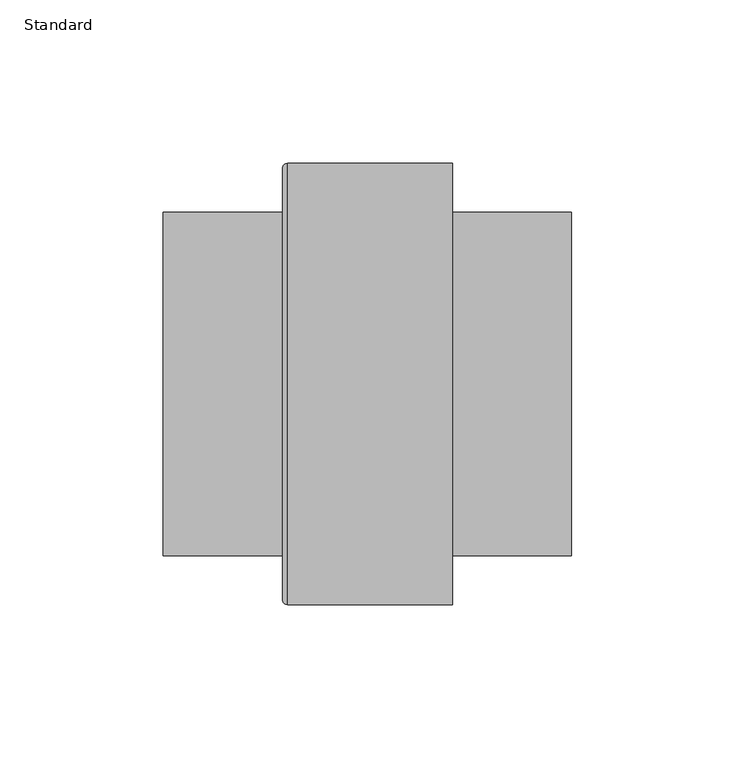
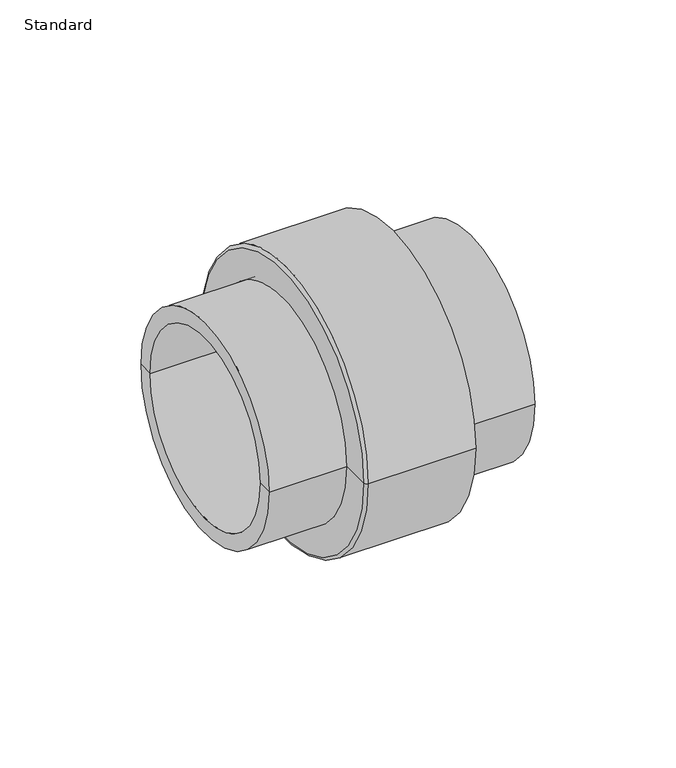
"""IFC4 building model written with IfcOpenShell, lengths in millimetres: pipe fitting geometry, Durapipe_PipeFitting_PVC_SocketUnions : Standard."""

from ifc_helpers import new_model, si_unit, point, frame, origin, place, context, project, spatial, polyline, circle_curve, ellipse_curve, trimmed, source, transform, mapped, element, save
from ifc_brep_helpers import plane_surface, cylinder_surface, revolved_surface, advanced_brep


def standard_3389f363(model_context):
    return source(origin(), model_context, "Body", "AdvancedBrep", [
        advanced_brep(
        [(-64.0, -52.5, 0.0), (-64.0, 52.5, 0.0), (-64.0, 66.0, 0.0), (-64.0, -66.0, 0.0), (-12.0, -67.5, 0.0), (-12.0, 67.5, 0.0), (-12.0, 52.5, 0.0), (-12.0, -52.5, 0.0), (-62.5, -67.5, 0.0), (-62.5, 67.5, 0.0)],
        [
            (0, 1, circle_curve(frame((-64.0, 0.0, 0.0), z_axis=(1.0, 0.0, 0.0), x_axis=(0.0, 1.0, 0.0)), 52.5)),
            (1, 2),
            (2, 3, circle_curve(frame((-64.0, 0.0, 0.0), z_axis=(-1.0, 0.0, 0.0), x_axis=(0.0, 1.0, 0.0)), 66.0)),
            (3, 0),
            (1, 0, circle_curve(frame((-64.0, 0.0, 0.0), z_axis=(1.0, 0.0, 0.0), x_axis=(0.0, 1.0, 0.0)), 52.5)),
            (3, 2, circle_curve(frame((-64.0, 0.0, 0.0), z_axis=(-1.0, 0.0, 0.0), x_axis=(0.0, 1.0, 0.0)), 66.0)),
            (4, 5, circle_curve(frame((-12.0, 0.0, 0.0), z_axis=(1.0, 0.0, 0.0), x_axis=(0.0, 1.0, 0.0)), 67.5)),
            (5, 6),
            (6, 7, circle_curve(frame((-12.0, 0.0, 0.0), z_axis=(-1.0, 0.0, 0.0), x_axis=(0.0, 1.0, 0.0)), 52.5)),
            (7, 4),
            (5, 4, circle_curve(frame((-12.0, 0.0, 0.0), z_axis=(1.0, 0.0, 0.0), x_axis=(0.0, 1.0, 0.0)), 67.5)),
            (7, 6, circle_curve(frame((-12.0, 0.0, 0.0), z_axis=(-1.0, 0.0, 0.0), x_axis=(0.0, 1.0, 0.0)), 52.5)),
            (8, 9, circle_curve(frame((-62.5, 0.0, 0.0), z_axis=(1.0, 0.0, 0.0), x_axis=(0.0, 1.0, 0.0)), 67.5)),
            (9, 5),
            (4, 8),
            (9, 8, circle_curve(frame((-62.5, 0.0, 0.0), z_axis=(1.0, 0.0, 0.0), x_axis=(0.0, 1.0, 0.0)), 67.5)),
            (2, 9, circle_curve(frame((-62.5, 66.0, 0.0), z_axis=(0.0, 0.0, -1.0), x_axis=(1.0, 0.0, 0.0)), 1.5)),
            (8, 3, circle_curve(frame((-62.5, -66.0, 0.0), z_axis=(0.0, 0.0, -1.0), x_axis=(1.0, 0.0, 0.0)), 1.5)),
            (6, 1),
            (0, 7),
        ],
        [
            plane_surface(frame((-64.0, 0.0, 0.0), z_axis=(-1.0, 0.0, 0.0), x_axis=(0.0, 1.0, 0.0))),
            plane_surface(frame((-12.0, 0.0, 0.0), z_axis=(1.0, 0.0, 0.0), x_axis=(0.0, 1.0, 0.0))),
            cylinder_surface(frame((2000.0, 0.0, 0.0), z_axis=(-1.0, 0.0, 0.0), x_axis=(0.0, 1.0, 0.0)), 67.5),
            revolved_surface(trimmed(ellipse_curve(frame((-62.5, 66.0, 0.0), z_axis=(0.0, 0.0, 1.0), x_axis=(1.0, 0.0, 0.0)), 1.5, 1.5), [point((-62.5, 67.5, 0.0))], [point((-64.0, 66.0, 0.0))], True, "CARTESIAN"), (2000.0, 0.0, 0.0), (-1.0, 0.0, 0.0)),
            revolved_surface(polyline([(-64.0, 52.5, 0.0), (-12.0, 52.5, 0.0)]), (2000.0, 0.0, 0.0), (-1.0, 0.0, 0.0)),
        ],
        [
            (0, [[1, 2, 3, 4]]),
            (0, [[5, -4, 6, -2]]),
            (1, [[7, 8, 9, 10]]),
            (1, [[11, -10, 12, -8]]),
            (2, [[13, 14, -7, 15]]),
            (2, [[16, -15, -11, -14]]),
            (3, [[-3, 17, -13, 18]]),
            (3, [[-6, -18, -16, -17]]),
            (4, [[-9, 19, -1, 20]]),
            (4, [[-12, -20, -5, -19]]),
        ],
    ),
        advanced_brep(
        [(-49.5, -45.0, 0.0), (-49.5, 45.0, 0.0), (-100.5, 45.0, 0.0), (-100.5, -45.0, 0.0), (-49.5, 0.0, 0.0), (-26.5, -45.0, 0.0), (-26.5, 45.0, 0.0), (-26.5, 0.0, 0.0), (-100.5, -52.5, 0.0), (-100.5, 52.5, 0.0), (24.5, 52.5, 0.0), (24.5, -52.5, 0.0), (24.5, -45.0, 0.0), (24.5, 45.0, 0.0)],
        [
            (0, 1, circle_curve(frame((-49.5, 0.0, 0.0), z_axis=(1.0, 0.0, 0.0), x_axis=(0.0, 1.0, 0.0)), 45.0)),
            (1, 2),
            (2, 3, circle_curve(frame((-100.5, 0.0, 0.0), z_axis=(-1.0, 0.0, 0.0), x_axis=(0.0, 1.0, 0.0)), 45.0)),
            (3, 0),
            (1, 0, circle_curve(frame((-49.5, 0.0, 0.0), z_axis=(1.0, 0.0, 0.0), x_axis=(0.0, 1.0, 0.0)), 45.0)),
            (3, 2, circle_curve(frame((-100.5, 0.0, 0.0), z_axis=(-1.0, 0.0, 0.0), x_axis=(0.0, 1.0, 0.0)), 45.0)),
            (4, 1),
            (0, 4),
            (5, 6, circle_curve(frame((-26.5, 0.0, 0.0), z_axis=(1.0, 0.0, 0.0), x_axis=(0.0, 1.0, 0.0)), 45.0)),
            (6, 7),
            (7, 5),
            (6, 5, circle_curve(frame((-26.5, 0.0, 0.0), z_axis=(1.0, 0.0, 0.0), x_axis=(0.0, 1.0, 0.0)), 45.0)),
            (8, 9, circle_curve(frame((-100.5, 0.0, 0.0), z_axis=(1.0, 0.0, 0.0), x_axis=(0.0, 1.0, 0.0)), 52.5)),
            (9, 10),
            (10, 11, circle_curve(frame((24.5, 0.0, 0.0), z_axis=(-1.0, 0.0, 0.0), x_axis=(0.0, 1.0, 0.0)), 52.5)),
            (11, 8),
            (9, 8, circle_curve(frame((-100.5, 0.0, 0.0), z_axis=(1.0, 0.0, 0.0), x_axis=(0.0, 1.0, 0.0)), 52.5)),
            (11, 10, circle_curve(frame((24.5, 0.0, 0.0), z_axis=(-1.0, 0.0, 0.0), x_axis=(0.0, 1.0, 0.0)), 52.5)),
            (2, 9),
            (8, 3),
            (12, 13, circle_curve(frame((24.5, 0.0, 0.0), z_axis=(1.0, 0.0, 0.0), x_axis=(0.0, 1.0, 0.0)), 45.0)),
            (13, 6),
            (5, 12),
            (13, 12, circle_curve(frame((24.5, 0.0, 0.0), z_axis=(1.0, 0.0, 0.0), x_axis=(0.0, 1.0, 0.0)), 45.0)),
            (10, 13),
            (12, 11),
        ],
        [
            revolved_surface(polyline([(-100.5, 45.0, 0.0), (-49.5, 45.0, 0.0)]), (2000.0, 0.0, 0.0), (-1.0, 0.0, 0.0)),
            plane_surface(frame((-49.5, 0.0, 0.0), z_axis=(-1.0, 0.0, 0.0), x_axis=(0.0, 1.0, 0.0))),
            plane_surface(frame((-26.5, 0.0, 0.0), z_axis=(1.0, 0.0, 0.0), x_axis=(0.0, 1.0, 0.0))),
            cylinder_surface(frame((2000.0, 0.0, 0.0), z_axis=(-1.0, 0.0, 0.0), x_axis=(0.0, 1.0, 0.0)), 52.5),
            plane_surface(frame((-100.5, 0.0, 0.0), z_axis=(-1.0, 0.0, 0.0), x_axis=(0.0, 1.0, 0.0))),
            revolved_surface(polyline([(-26.5, 45.0, 0.0), (24.5, 45.0, 0.0)]), (2000.0, 0.0, 0.0), (-1.0, 0.0, 0.0)),
            plane_surface(frame((24.5, 0.0, 0.0), z_axis=(1.0, 0.0, 0.0), x_axis=(0.0, 1.0, 0.0))),
        ],
        [
            (0, [[1, 2, 3, 4]]),
            (0, [[5, -4, 6, -2]]),
            (1, [[7, -1, 8]]),
            (1, [[-8, -5, -7]]),
            (2, [[9, 10, 11]]),
            (2, [[12, -11, -10]]),
            (3, [[13, 14, 15, 16]]),
            (3, [[17, -16, 18, -14]]),
            (4, [[-3, 19, -13, 20]]),
            (4, [[-6, -20, -17, -19]]),
            (5, [[21, 22, -9, 23]]),
            (5, [[24, -23, -12, -22]]),
            (6, [[-15, 25, -21, 26]]),
            (6, [[-18, -26, -24, -25]]),
        ],
    ),
    ])


if __name__ == "__main__":
    model = new_model("IFC4")
    model_context = context("Model", 3, world=origin())
    ifc_project = project(units=[si_unit("LENGTHUNIT", "METRE", prefix="MILLI")], contexts=[model_context])
    site = spatial("IfcSite", under=ifc_project)
    building = spatial("IfcBuilding", under=site)
    placement = place(None, origin())
    standard_shape = standard_3389f363(model_context)
    element("IfcPipeFitting", 1, ObjectType="Durapipe_PipeFitting_PVC_SocketUnions : Standard", at=placement, inside=building, context=model_context, shape_type="MappedRepresentation", body=[
        mapped(standard_shape, transform((0.0, 0.0, 0.0), x_axis=(1.0, 0.0, 0.0), y_axis=(0.0, 1.0, 0.0), z_axis=(0.0, 0.0, 1.0))),
    ])
    save(model, "model.ifc")
